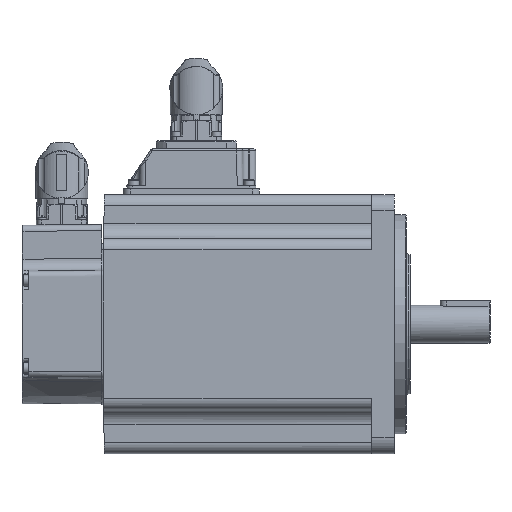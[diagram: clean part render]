
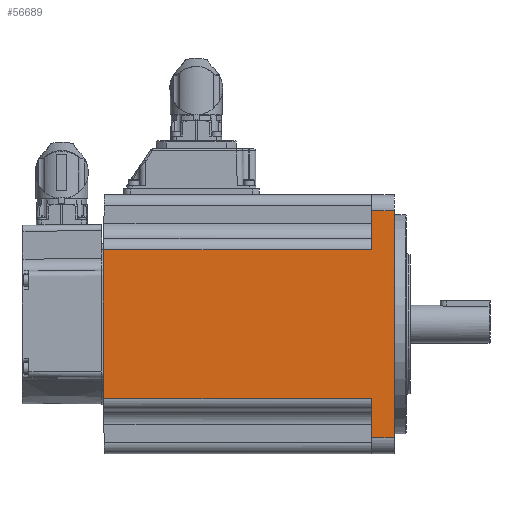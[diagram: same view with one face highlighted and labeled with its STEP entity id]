
A CAD part, left-side view. The second image highlights one B-rep face of the part: STEP entity #56689.
In plain terms, the highlighted planar face has unit normal (-1, 0, 0).
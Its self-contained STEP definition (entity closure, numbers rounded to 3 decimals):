
#56689 = ADVANCED_FACE( '', ( #65674 ), #65675, .T. );
#57486 = EDGE_CURVE( '', #67211, #67212, #67213, .F. );
#58281 = EDGE_CURVE( '', #67211, #68565, #68566, .T. );
#58916 = EDGE_CURVE( '', #69629, #69627, #69630, .T. );
#60175 = EDGE_CURVE( '', #71654, #69629, #71655, .T. );
#60595 = EDGE_CURVE( '', #72307, #72309, #72310, .T. );
#62279 = EDGE_CURVE( '', #74758, #67212, #74759, .T. );
#64244 = EDGE_CURVE( '', #72307, #68565, #77238, .T. );
#65674 = FACE_OUTER_BOUND( '', #78726, .T. );
#65675 = PLANE( '', #78727 );
#67211 = VERTEX_POINT( '', #81654 );
#67212 = VERTEX_POINT( '', #81655 );
#67213 = LINE( '', #81656, #81657 );
#68565 = VERTEX_POINT( '', #84603 );
#68566 = LINE( '', #84604, #84605 );
#69627 = VERTEX_POINT( '', #86719 );
#69629 = VERTEX_POINT( '', #86721 );
#69630 = LINE( '', #86722, #86723 );
#71654 = VERTEX_POINT( '', #91674 );
#71655 = LINE( '', #91675, #91676 );
#72307 = VERTEX_POINT( '', #93310 );
#72309 = VERTEX_POINT( '', #93312 );
#72310 = LINE( '', #93313, #93314 );
#74758 = VERTEX_POINT( '', #98348 );
#74759 = LINE( '', #98349, #98350 );
#77238 = LINE( '', #104409, #104410 );
#78726 = EDGE_LOOP( '', ( #107532, #107533, #107534, #107535, #107536, #107537, #107538, #107539, #107540 ) );
#78727 = AXIS2_PLACEMENT_3D( '', #107541, #107542, #107543 );
#81654 = CARTESIAN_POINT( '', ( -65., -39.5, 57. ) );
#81655 = CARTESIAN_POINT( '', ( -65., -28., 57. ) );
#81656 = CARTESIAN_POINT( '', ( -65., 277.158, 57. ) );
#81657 = VECTOR( '', #109830, 1000. );
#84603 = CARTESIAN_POINT( '', ( -65., -39.5, -57. ) );
#84604 = CARTESIAN_POINT( '', ( -65., -39.5, 65. ) );
#84605 = VECTOR( '', #110769, 1000. );
#86719 = CARTESIAN_POINT( '', ( -65., 106.473, -37.5 ) );
#86721 = CARTESIAN_POINT( '', ( -65., 106.8, 0. ) );
#86722 = CARTESIAN_POINT( '', ( -65., 106.227, -65.623 ) );
#86723 = VECTOR( '', #111536, 1000. );
#91674 = CARTESIAN_POINT( '', ( -65., 106.473, 37.5 ) );
#91675 = CARTESIAN_POINT( '', ( -65., 107.362, -64.367 ) );
#91676 = VECTOR( '', #113019, 1000. );
#93310 = CARTESIAN_POINT( '', ( -65., -28., -57. ) );
#93312 = CARTESIAN_POINT( '', ( -65., -28., -37.5 ) );
#93313 = CARTESIAN_POINT( '', ( -65., -28., 65. ) );
#93314 = VECTOR( '', #113488, 1000. );
#98348 = CARTESIAN_POINT( '', ( -65., -28., 37.5 ) );
#98349 = CARTESIAN_POINT( '', ( -65., -28., 65. ) );
#98350 = VECTOR( '', #115427, 1000. );
#104409 = CARTESIAN_POINT( '', ( -65., 277.158, -57. ) );
#104410 = VECTOR( '', #117324, 1000. );
#107532 = ORIENTED_EDGE( '', *, *, #118075, .T. );
#107533 = ORIENTED_EDGE( '', *, *, #60175, .T. );
#107534 = ORIENTED_EDGE( '', *, *, #58916, .T. );
#107535 = ORIENTED_EDGE( '', *, *, #118076, .T. );
#107536 = ORIENTED_EDGE( '', *, *, #60595, .F. );
#107537 = ORIENTED_EDGE( '', *, *, #64244, .T. );
#107538 = ORIENTED_EDGE( '', *, *, #58281, .F. );
#107539 = ORIENTED_EDGE( '', *, *, #57486, .T. );
#107540 = ORIENTED_EDGE( '', *, *, #62279, .F. );
#107541 = CARTESIAN_POINT( '', ( -65., 277.158, 65. ) );
#107542 = DIRECTION( '', ( -1., 0., 0. ) );
#107543 = DIRECTION( '', ( 0., 0., 1. ) );
#109830 = DIRECTION( '', ( 0., -1., 0. ) );
#110769 = DIRECTION( '', ( 0., 0., -1. ) );
#111536 = DIRECTION( '', ( 0., -0.009, -1. ) );
#113019 = DIRECTION( '', ( 0., 0.009, -1. ) );
#113488 = DIRECTION( '', ( 0., 0., 1. ) );
#115427 = DIRECTION( '', ( 0., 0., 1. ) );
#117324 = DIRECTION( '', ( 0., -1., 0. ) );
#118075 = EDGE_CURVE( '', #74758, #71654, #119011, .T. );
#118076 = EDGE_CURVE( '', #69627, #72309, #119012, .T. );
#119011 = LINE( '', #120431, #120432 );
#119012 = LINE( '', #120433, #120434 );
#120431 = CARTESIAN_POINT( '', ( -65., 277.158, 37.5 ) );
#120432 = VECTOR( '', #121911, 1000. );
#120433 = CARTESIAN_POINT( '', ( -65., 277.158, -37.5 ) );
#120434 = VECTOR( '', #121912, 1000. );
#121911 = DIRECTION( '', ( 0., 1., 0. ) );
#121912 = DIRECTION( '', ( 0., -1., 0. ) );
